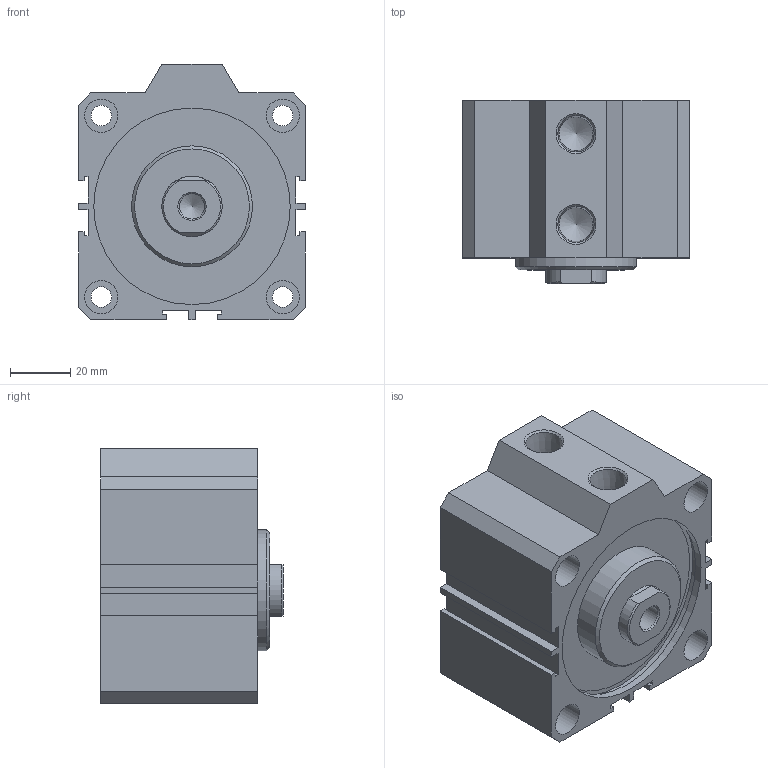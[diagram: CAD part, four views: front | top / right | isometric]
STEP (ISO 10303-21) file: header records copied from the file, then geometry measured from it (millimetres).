
FILE_DESCRIPTION(/* description */ ('Unknown'),/* implementation_level */ '2;1');
FILE_NAME(/* name */ 'WJ63-20',/* time_stamp */ '2026-07-17T16:17:41+08:00',/* author */ ('Unknown'),/* organization */ ('Unknown'),/* preprocessor_version */ 'ST-DEVELOPER v16.7',/* originating_system */ 'DEX',/* authorisation */ $);
FILE_SCHEMA (('CONFIG_CONTROL_DESIGN'));
Length unit declared in the file: millimetre
Products named in the file (5): WJ63-20; WJ63_本; WJ63_前; WJ63_後; WJ63_心軸活
Assembly tree (4 placements, depth 2):
  WJ63-20
    WJ63_本
    WJ63_前
    WJ63_後
    WJ63_心軸活
Bounding box: 75 x 60.5 x 84.5 mm (x, y, z)
Volume: 205056.9 mm3; surface area: 69486.1 mm2
Topology: 4 solids, 4 shells, 118 faces, 285 edges, 192 vertices
Faces by surface type: plane 77, cylinder 29, cone 12
Full cylindrical faces by diameter (mm): 6.8 x4, 8.376 x1, 11 x8, 11.2 x2, 20 x2, 40 x2, 62.5 x1, 63 x1, 65 x6, 68 x2
Entity records: 3961 total; most frequent: DIRECTION 538, CARTESIAN_POINT 536, ORIENTED_EDGE 452, EDGE_CURVE 226, AXIS2_PLACEMENT_3D 193, FACE_BOUND 189, EDGE_LOOP 186, VERTEX_POINT 175
